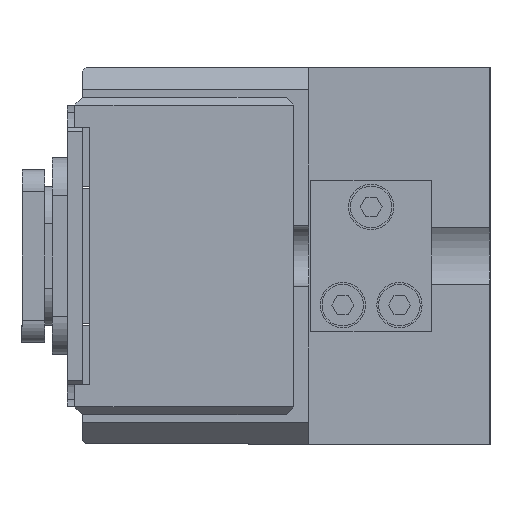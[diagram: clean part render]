
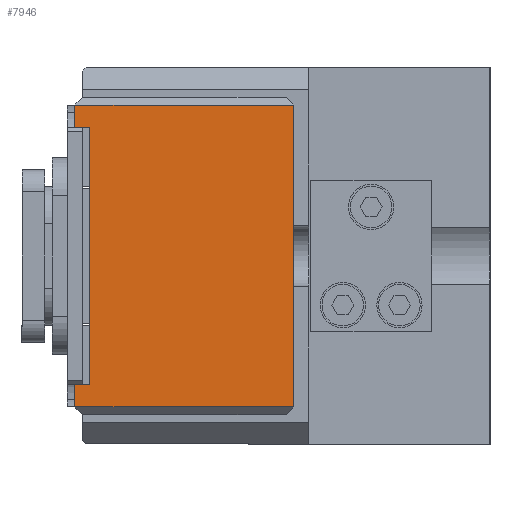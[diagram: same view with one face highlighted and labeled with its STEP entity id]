
A CAD part, left-side view. The second image highlights one B-rep face of the part: STEP entity #7946.
In plain terms, the highlighted planar face has unit normal (-1, 0, 0) as drawn and (1, 0, 0) by its records, which use the part's own axes.
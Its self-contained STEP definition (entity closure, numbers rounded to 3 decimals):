
#282 = CARTESIAN_POINT ( 'NONE',  ( 83.15, 20., 54. ) ) ;
#598 = LINE ( 'NONE', #9488, #17880 ) ;
#608 = VERTEX_POINT ( 'NONE', #11601 ) ;
#1591 = CARTESIAN_POINT ( 'NONE',  ( 83.15, 0., 54. ) ) ;
#1717 = CARTESIAN_POINT ( 'NONE',  ( 83.15, -20., 27. ) ) ;
#2026 = EDGE_CURVE ( 'NONE', #10061, #13586, #598, .T. ) ;
#2121 = LINE ( 'NONE', #8925, #11052 ) ;
#2415 = CARTESIAN_POINT ( 'NONE',  ( 83.15, -20., 54. ) ) ;
#2632 = VECTOR ( 'NONE', #11008, 1000. ) ;
#2976 = EDGE_CURVE ( 'NONE', #10593, #6317, #14865, .T. ) ;
#2993 = CARTESIAN_POINT ( 'NONE',  ( 83.15, 17.05, 56. ) ) ;
#3234 = CARTESIAN_POINT ( 'NONE',  ( 83.15, -17.05, 56. ) ) ;
#3603 = EDGE_CURVE ( 'NONE', #6317, #14727, #18731, .T. ) ;
#4000 = VECTOR ( 'NONE', #8426, 1000. ) ;
#4240 = DIRECTION ( 'NONE',  ( 0., 0., -1. ) ) ;
#4262 = PLANE ( 'NONE',  #18309 ) ;
#4956 = VECTOR ( 'NONE', #4240, 1000. ) ;
#5298 = EDGE_CURVE ( 'NONE', #18653, #13729, #11552, .T. ) ;
#6317 = VERTEX_POINT ( 'NONE', #21624 ) ;
#7264 = ORIENTED_EDGE ( 'NONE', *, *, #10658, .T. ) ;
#7754 = ORIENTED_EDGE ( 'NONE', *, *, #5298, .T. ) ;
#7946 = ADVANCED_FACE ( 'NONE', ( #21809 ), #4262, .T. ) ;
#7964 = ORIENTED_EDGE ( 'NONE', *, *, #2976, .T. ) ;
#8402 = VECTOR ( 'NONE', #21446, 1000. ) ;
#8426 = DIRECTION ( 'NONE',  ( 0., 0., 1. ) ) ;
#8520 = ORIENTED_EDGE ( 'NONE', *, *, #12075, .T. ) ;
#8647 = EDGE_LOOP ( 'NONE', ( #8520, #18745, #17783, #14655, #7754, #7264, #7964, #20284 ) ) ;
#8814 = VECTOR ( 'NONE', #12710, 1000. ) ;
#8925 = CARTESIAN_POINT ( 'NONE',  ( 83.15, 17.05, 54. ) ) ;
#9334 = CARTESIAN_POINT ( 'NONE',  ( 83.15, 20., 27. ) ) ;
#9488 = CARTESIAN_POINT ( 'NONE',  ( 83.15, 0., 27. ) ) ;
#9692 = DIRECTION ( 'NONE',  ( 1., 0., 0. ) ) ;
#10061 = VERTEX_POINT ( 'NONE', #1717 ) ;
#10593 = VERTEX_POINT ( 'NONE', #15758 ) ;
#10658 = EDGE_CURVE ( 'NONE', #13729, #10593, #2121, .T. ) ;
#10732 = EDGE_CURVE ( 'NONE', #13586, #18653, #22478, .T. ) ;
#11008 = DIRECTION ( 'NONE',  ( 0., -1., 0. ) ) ;
#11052 = VECTOR ( 'NONE', #19562, 1000. ) ;
#11552 = LINE ( 'NONE', #21689, #2632 ) ;
#11601 = CARTESIAN_POINT ( 'NONE',  ( 83.15, -20., 56. ) ) ;
#12075 = EDGE_CURVE ( 'NONE', #14727, #608, #13129, .T. ) ;
#12710 = DIRECTION ( 'NONE',  ( 0., 0., 1. ) ) ;
#13129 = LINE ( 'NONE', #16026, #8402 ) ;
#13586 = VERTEX_POINT ( 'NONE', #9334 ) ;
#13729 = VERTEX_POINT ( 'NONE', #2993 ) ;
#14392 = LINE ( 'NONE', #2415, #4956 ) ;
#14397 = CARTESIAN_POINT ( 'NONE',  ( 83.15, 20., 56. ) ) ;
#14655 = ORIENTED_EDGE ( 'NONE', *, *, #10732, .T. ) ;
#14727 = VERTEX_POINT ( 'NONE', #3234 ) ;
#14865 = LINE ( 'NONE', #1591, #19051 ) ;
#15758 = CARTESIAN_POINT ( 'NONE',  ( 83.15, 17.05, 54. ) ) ;
#15822 = DIRECTION ( 'NONE',  ( 0., -1., 0. ) ) ;
#16026 = CARTESIAN_POINT ( 'NONE',  ( 83.15, 0., 56. ) ) ;
#17367 = CARTESIAN_POINT ( 'NONE',  ( 83.15, -17.05, 54. ) ) ;
#17783 = ORIENTED_EDGE ( 'NONE', *, *, #2026, .T. ) ;
#17880 = VECTOR ( 'NONE', #20147, 1000. ) ;
#18309 = AXIS2_PLACEMENT_3D ( 'NONE', #20349, #9692, #22169 ) ;
#18653 = VERTEX_POINT ( 'NONE', #14397 ) ;
#18731 = LINE ( 'NONE', #17367, #4000 ) ;
#18745 = ORIENTED_EDGE ( 'NONE', *, *, #21750, .T. ) ;
#19051 = VECTOR ( 'NONE', #15822, 1000. ) ;
#19562 = DIRECTION ( 'NONE',  ( 0., 0., -1. ) ) ;
#20147 = DIRECTION ( 'NONE',  ( 0., 1., 0. ) ) ;
#20284 = ORIENTED_EDGE ( 'NONE', *, *, #3603, .T. ) ;
#20349 = CARTESIAN_POINT ( 'NONE',  ( 83.15, 0., 54. ) ) ;
#21446 = DIRECTION ( 'NONE',  ( 0., -1., 0. ) ) ;
#21624 = CARTESIAN_POINT ( 'NONE',  ( 83.15, -17.05, 54. ) ) ;
#21689 = CARTESIAN_POINT ( 'NONE',  ( 83.15, 0., 56. ) ) ;
#21750 = EDGE_CURVE ( 'NONE', #608, #10061, #14392, .T. ) ;
#21809 = FACE_OUTER_BOUND ( 'NONE', #8647, .T. ) ;
#22169 = DIRECTION ( 'NONE',  ( 0., 0., -1. ) ) ;
#22478 = LINE ( 'NONE', #282, #8814 ) ;
